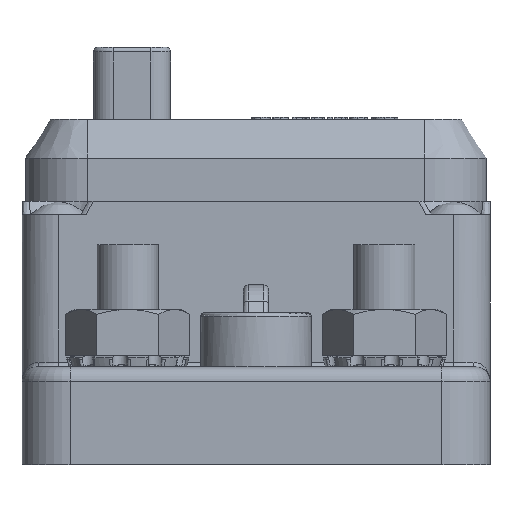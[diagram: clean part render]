
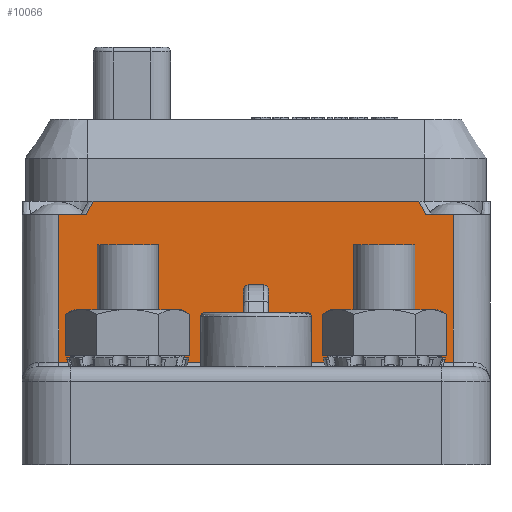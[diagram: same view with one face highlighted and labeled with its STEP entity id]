
A CAD part, left-side view. The second image highlights one B-rep face of the part: STEP entity #10066.
In plain terms, the highlighted planar face has unit normal (-1, 0, 0).
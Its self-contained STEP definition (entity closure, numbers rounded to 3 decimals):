
#579=B_SPLINE_CURVE_WITH_KNOTS('',3,(#17545,#17546,#17547,#17548),
 .UNSPECIFIED.,.F.,.F.,(4,4),(-0.173,-0.02),
 .UNSPECIFIED.);
#592=B_SPLINE_CURVE_WITH_KNOTS('',3,(#18090,#18091,#18092,#18093),
 .UNSPECIFIED.,.F.,.F.,(4,4),(-0.134,0.019),
 .UNSPECIFIED.);
#1144=LINE('',#16231,#1800);
#1198=LINE('',#16624,#1854);
#1219=LINE('',#16715,#1875);
#1221=LINE('',#16726,#1877);
#1222=LINE('',#16730,#1878);
#1271=LINE('',#17348,#1927);
#1282=LINE('',#18485,#1938);
#1283=LINE('',#18486,#1939);
#1284=LINE('',#18488,#1940);
#1285=LINE('',#18489,#1941);
#1800=VECTOR('',#11915,10.);
#1854=VECTOR('',#12121,10.);
#1875=VECTOR('',#12218,10.);
#1877=VECTOR('',#12236,10.);
#1878=VECTOR('',#12241,10.);
#1927=VECTOR('',#12456,10.);
#1938=VECTOR('',#12509,10.);
#1939=VECTOR('',#12510,10.);
#1940=VECTOR('',#12511,10.);
#1941=VECTOR('',#12512,10.);
#2638=FACE_OUTER_BOUND('',#3259,.T.);
#3259=EDGE_LOOP('',(#7994,#7995,#7996,#7997,#7998,#7999,#8000,#8001,#8002,
#8003,#8004,#8005,#8006,#8007));
#3668=CIRCLE('',#10749,0.5);
#3671=CIRCLE('',#10756,0.5);
#4285=VERTEX_POINT('',#16171);
#4286=VERTEX_POINT('',#16230);
#4347=VERTEX_POINT('',#16621);
#4348=VERTEX_POINT('',#16623);
#4377=VERTEX_POINT('',#16705);
#4378=VERTEX_POINT('',#16706);
#4380=VERTEX_POINT('',#16713);
#4381=VERTEX_POINT('',#16725);
#4382=VERTEX_POINT('',#16729);
#4459=VERTEX_POINT('',#17346);
#4468=VERTEX_POINT('',#17544);
#4476=VERTEX_POINT('',#18025);
#4486=VERTEX_POINT('',#18484);
#4487=VERTEX_POINT('',#18487);
#5425=EDGE_CURVE('',#4286,#4285,#1144,.T.);
#5527=EDGE_CURVE('',#4348,#4347,#1198,.T.);
#5567=EDGE_CURVE('',#4377,#4378,#3668,.F.);
#5572=EDGE_CURVE('',#4377,#4380,#1219,.T.);
#5576=EDGE_CURVE('',#4348,#4380,#3671,.F.);
#5577=EDGE_CURVE('',#4381,#4378,#1221,.T.);
#5579=EDGE_CURVE('',#4381,#4382,#1222,.T.);
#5696=EDGE_CURVE('',#4459,#4347,#1271,.T.);
#5713=EDGE_CURVE('',#4286,#4468,#579,.T.);
#5728=EDGE_CURVE('',#4476,#4285,#592,.T.);
#5748=EDGE_CURVE('',#4486,#4459,#1282,.T.);
#5749=EDGE_CURVE('',#4486,#4468,#1283,.T.);
#5750=EDGE_CURVE('',#4476,#4487,#1284,.T.);
#5751=EDGE_CURVE('',#4382,#4487,#1285,.T.);
#7994=ORIENTED_EDGE('',*,*,#5527,.T.);
#7995=ORIENTED_EDGE('',*,*,#5696,.F.);
#7996=ORIENTED_EDGE('',*,*,#5748,.F.);
#7997=ORIENTED_EDGE('',*,*,#5749,.T.);
#7998=ORIENTED_EDGE('',*,*,#5713,.F.);
#7999=ORIENTED_EDGE('',*,*,#5425,.T.);
#8000=ORIENTED_EDGE('',*,*,#5728,.F.);
#8001=ORIENTED_EDGE('',*,*,#5750,.T.);
#8002=ORIENTED_EDGE('',*,*,#5751,.F.);
#8003=ORIENTED_EDGE('',*,*,#5579,.F.);
#8004=ORIENTED_EDGE('',*,*,#5577,.T.);
#8005=ORIENTED_EDGE('',*,*,#5567,.F.);
#8006=ORIENTED_EDGE('',*,*,#5572,.T.);
#8007=ORIENTED_EDGE('',*,*,#5576,.F.);
#9699=PLANE('',#10864);
#10066=ADVANCED_FACE('',(#2638),#9699,.F.);
#10749=AXIS2_PLACEMENT_3D('',#16707,#12210,#12211);
#10756=AXIS2_PLACEMENT_3D('',#16722,#12230,#12231);
#10864=AXIS2_PLACEMENT_3D('',#18483,#12507,#12508);
#11915=DIRECTION('',(0.,1.,0.));
#12121=DIRECTION('',(0.,0.,-1.));
#12210=DIRECTION('center_axis',(1.,0.,0.));
#12211=DIRECTION('ref_axis',(0.,0.707,0.707));
#12218=DIRECTION('',(0.,-1.,0.));
#12230=DIRECTION('center_axis',(1.,0.,0.));
#12231=DIRECTION('ref_axis',(0.,-0.707,0.707));
#12236=DIRECTION('',(0.,0.,1.));
#12241=DIRECTION('',(0.,1.,0.));
#12456=DIRECTION('',(0.,1.,0.));
#12507=DIRECTION('center_axis',(1.,0.,0.));
#12508=DIRECTION('ref_axis',(0.,0.,-1.));
#12509=DIRECTION('',(0.,0.,-1.));
#12510=DIRECTION('',(0.,1.,0.));
#12511=DIRECTION('',(0.,1.,0.));
#12512=DIRECTION('',(0.,0.,1.));
#16171=CARTESIAN_POINT('',(31.85,41.123,23.299));
#16230=CARTESIAN_POINT('',(31.85,7.377,23.299));
#16231=CARTESIAN_POINT('',(31.85,0.,23.299));
#16621=CARTESIAN_POINT('',(31.85,22.95,6.65));
#16623=CARTESIAN_POINT('',(31.85,22.95,14.15));
#16624=CARTESIAN_POINT('',(31.85,22.95,7.837));
#16705=CARTESIAN_POINT('',(31.85,25.05,14.65));
#16706=CARTESIAN_POINT('',(31.85,25.55,14.15));
#16707=CARTESIAN_POINT('Origin',(31.85,25.05,14.15));
#16713=CARTESIAN_POINT('',(31.85,23.45,14.65));
#16715=CARTESIAN_POINT('',(31.85,12.125,14.65));
#16722=CARTESIAN_POINT('Origin',(31.85,23.45,14.15));
#16725=CARTESIAN_POINT('',(31.85,25.55,6.65));
#16726=CARTESIAN_POINT('',(31.85,25.55,7.837));
#16729=CARTESIAN_POINT('',(31.85,44.674,6.65));
#16730=CARTESIAN_POINT('',(31.85,12.125,6.65));
#17346=CARTESIAN_POINT('',(31.85,3.826,6.65));
#17348=CARTESIAN_POINT('',(31.85,12.125,6.65));
#17544=CARTESIAN_POINT('',(31.85,6.659,21.949));
#17545=CARTESIAN_POINT('Ctrl Pts',(31.85,7.377,23.299));
#17546=CARTESIAN_POINT('Ctrl Pts',(31.85,7.148,22.843));
#17547=CARTESIAN_POINT('Ctrl Pts',(31.85,6.91,22.392));
#17548=CARTESIAN_POINT('Ctrl Pts',(31.85,6.659,21.948));
#18025=CARTESIAN_POINT('',(31.85,41.841,21.949));
#18090=CARTESIAN_POINT('Ctrl Pts',(31.85,41.841,21.948));
#18091=CARTESIAN_POINT('Ctrl Pts',(31.85,41.59,22.392));
#18092=CARTESIAN_POINT('Ctrl Pts',(31.85,41.352,22.843));
#18093=CARTESIAN_POINT('Ctrl Pts',(31.85,41.123,23.299));
#18483=CARTESIAN_POINT('Origin',(31.85,0.,6.15));
#18484=CARTESIAN_POINT('',(31.85,3.826,21.949));
#18485=CARTESIAN_POINT('',(31.85,3.826,3.075));
#18486=CARTESIAN_POINT('',(31.85,1.875,21.949));
#18487=CARTESIAN_POINT('',(31.85,44.674,21.949));
#18488=CARTESIAN_POINT('',(31.85,22.375,21.949));
#18489=CARTESIAN_POINT('',(31.85,44.674,3.075));
